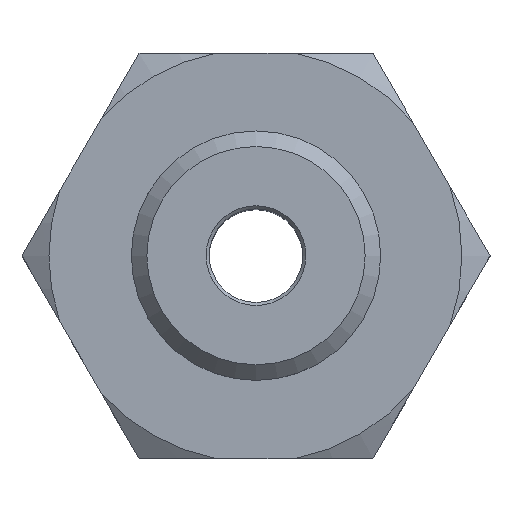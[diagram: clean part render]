
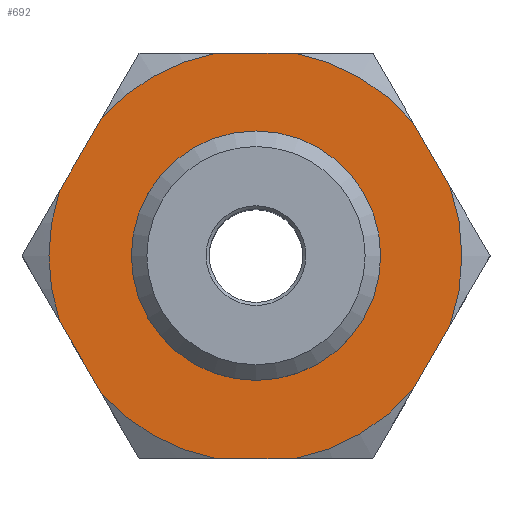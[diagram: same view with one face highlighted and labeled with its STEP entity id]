
A CAD part, top view. The second image highlights one B-rep face of the part: STEP entity #692.
In plain terms, the highlighted planar face has unit normal (0, 0, 1).
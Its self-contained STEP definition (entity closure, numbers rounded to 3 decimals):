
#73=CARTESIAN_POINT('',(5.029,-4.289,5.0));
#74=VERTEX_POINT('',#73);
#90=CARTESIAN_POINT('',(1.256,-6.5,5.0));
#91=VERTEX_POINT('',#90);
#92=CARTESIAN_POINT('',(-0.018,0.0,5.0));
#93=DIRECTION('',(0.0,0.0,1.0));
#94=DIRECTION('',(1.0,0.0,0.0));
#95=AXIS2_PLACEMENT_3D('',#92,#93,#94);
#96=CIRCLE('',#95,6.624);
#97=EDGE_CURVE('',#91,#74,#96,.T.);
#122=CARTESIAN_POINT('',(6.22,-2.226,5.0));
#123=VERTEX_POINT('',#122);
#137=CARTESIAN_POINT('',(6.22,2.226,5.0));
#138=VERTEX_POINT('',#137);
#152=CARTESIAN_POINT('',(-0.018,0.0,5.0));
#153=DIRECTION('',(0.0,0.0,1.0));
#154=DIRECTION('',(1.0,0.0,0.0));
#155=AXIS2_PLACEMENT_3D('',#152,#153,#154);
#156=CIRCLE('',#155,6.624);
#157=EDGE_CURVE('',#123,#138,#156,.T.);
#169=CARTESIAN_POINT('',(5.029,4.289,5.0));
#170=VERTEX_POINT('',#169);
#184=CARTESIAN_POINT('',(1.256,6.5,5.0));
#185=VERTEX_POINT('',#184);
#199=CARTESIAN_POINT('',(-0.018,0.0,5.0));
#200=DIRECTION('',(0.0,0.0,1.0));
#201=DIRECTION('',(1.0,0.0,0.0));
#202=AXIS2_PLACEMENT_3D('',#199,#200,#201);
#203=CIRCLE('',#202,6.624);
#204=EDGE_CURVE('',#170,#185,#203,.T.);
#216=CARTESIAN_POINT('',(-1.292,6.5,5.0));
#217=VERTEX_POINT('',#216);
#231=CARTESIAN_POINT('',(-4.958,4.412,5.0));
#232=VERTEX_POINT('',#231);
#246=CARTESIAN_POINT('',(-0.018,0.0,5.0));
#247=DIRECTION('',(0.0,0.0,1.0));
#248=DIRECTION('',(1.0,0.0,0.0));
#249=AXIS2_PLACEMENT_3D('',#246,#247,#248);
#250=CIRCLE('',#249,6.624);
#251=EDGE_CURVE('',#217,#232,#250,.T.);
#263=CARTESIAN_POINT('',(-6.309,2.072,5.0));
#264=VERTEX_POINT('',#263);
#278=CARTESIAN_POINT('',(-6.309,-2.072,5.0));
#279=VERTEX_POINT('',#278);
#293=CARTESIAN_POINT('',(-0.018,0.0,5.0));
#294=DIRECTION('',(0.0,0.0,1.0));
#295=DIRECTION('',(1.0,0.0,0.0));
#296=AXIS2_PLACEMENT_3D('',#293,#294,#295);
#297=CIRCLE('',#296,6.624);
#298=EDGE_CURVE('',#264,#279,#297,.T.);
#310=CARTESIAN_POINT('',(-4.958,-4.412,5.0));
#311=VERTEX_POINT('',#310);
#325=CARTESIAN_POINT('',(-1.292,-6.5,5.0));
#326=VERTEX_POINT('',#325);
#340=CARTESIAN_POINT('',(-0.018,0.0,5.0));
#341=DIRECTION('',(0.0,0.0,1.0));
#342=DIRECTION('',(1.0,0.0,0.0));
#343=AXIS2_PLACEMENT_3D('',#340,#341,#342);
#344=CIRCLE('',#343,6.624);
#345=EDGE_CURVE('',#311,#326,#344,.T.);
#632=CARTESIAN_POINT('',(0.,0.,5.0));
#633=DIRECTION('',(0.0,0.0,1.0));
#634=DIRECTION('',(1.0,0.0,0.0));
#635=AXIS2_PLACEMENT_3D('',#632,#633,#634);
#636=PLANE('',#635);
#637=ORIENTED_EDGE('',*,*,#345,.T.);
#638=CARTESIAN_POINT('',(1.256,-6.5,5.0));
#639=DIRECTION('',(-1.0,0.0,0.0));
#640=VECTOR('',#639,2.547);
#641=LINE('',#638,#640);
#642=EDGE_CURVE('',#91,#326,#641,.T.);
#643=ORIENTED_EDGE('',*,*,#642,.F.);
#644=ORIENTED_EDGE('',*,*,#97,.T.);
#645=CARTESIAN_POINT('',(6.22,-2.226,5.0));
#646=DIRECTION('',(-0.5,-0.866,0.0));
#647=VECTOR('',#646,2.382);
#648=LINE('',#645,#647);
#649=EDGE_CURVE('',#123,#74,#648,.T.);
#650=ORIENTED_EDGE('',*,*,#649,.F.);
#651=ORIENTED_EDGE('',*,*,#157,.T.);
#652=CARTESIAN_POINT('',(5.029,4.289,5.0));
#653=DIRECTION('',(0.5,-0.866,0.0));
#654=VECTOR('',#653,2.382);
#655=LINE('',#652,#654);
#656=EDGE_CURVE('',#170,#138,#655,.T.);
#657=ORIENTED_EDGE('',*,*,#656,.F.);
#658=ORIENTED_EDGE('',*,*,#204,.T.);
#659=CARTESIAN_POINT('',(-1.292,6.5,5.0));
#660=DIRECTION('',(1.0,0.0,0.0));
#661=VECTOR('',#660,2.547);
#662=LINE('',#659,#661);
#663=EDGE_CURVE('',#217,#185,#662,.T.);
#664=ORIENTED_EDGE('',*,*,#663,.F.);
#665=ORIENTED_EDGE('',*,*,#251,.T.);
#666=CARTESIAN_POINT('',(-6.309,2.072,5.0));
#667=DIRECTION('',(0.5,0.866,0.0));
#668=VECTOR('',#667,2.702);
#669=LINE('',#666,#668);
#670=EDGE_CURVE('',#264,#232,#669,.T.);
#671=ORIENTED_EDGE('',*,*,#670,.F.);
#672=ORIENTED_EDGE('',*,*,#298,.T.);
#673=CARTESIAN_POINT('',(-4.958,-4.412,5.0));
#674=DIRECTION('',(-0.5,0.866,0.0));
#675=VECTOR('',#674,2.702);
#676=LINE('',#673,#675);
#677=EDGE_CURVE('',#311,#279,#676,.T.);
#678=ORIENTED_EDGE('',*,*,#677,.F.);
#679=EDGE_LOOP('',(#637,#643,#644,#650,#651,#657,#658,#664,#665,#671,#672,#678));
#680=FACE_OUTER_BOUND('',#679,.T.);
#681=CARTESIAN_POINT('',(2.5,0.,5.0));
#682=VERTEX_POINT('',#681);
#683=CARTESIAN_POINT('',(0.0,0.0,5.0));
#684=DIRECTION('',(0.0,0.0,-1.0));
#685=DIRECTION('',(-1.0,0.0,0.0));
#686=AXIS2_PLACEMENT_3D('',#683,#684,#685);
#687=CIRCLE('',#686,2.5);
#688=EDGE_CURVE('',#682,#682,#687,.T.);
#689=ORIENTED_EDGE('',*,*,#688,.T.);
#690=EDGE_LOOP('',(#689));
#691=FACE_BOUND('',#690,.T.);
#692=ADVANCED_FACE('',(#680,#691),#636,.T.);
